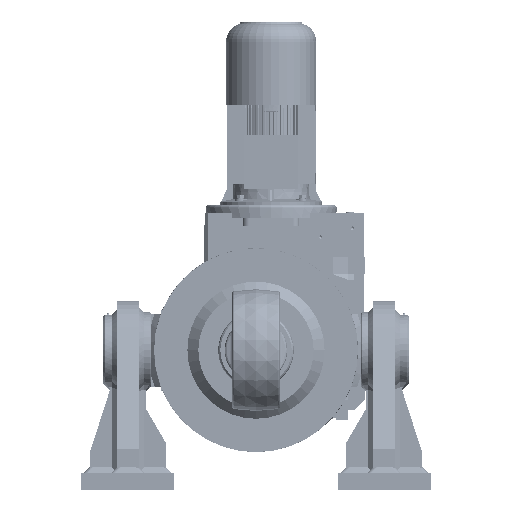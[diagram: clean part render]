
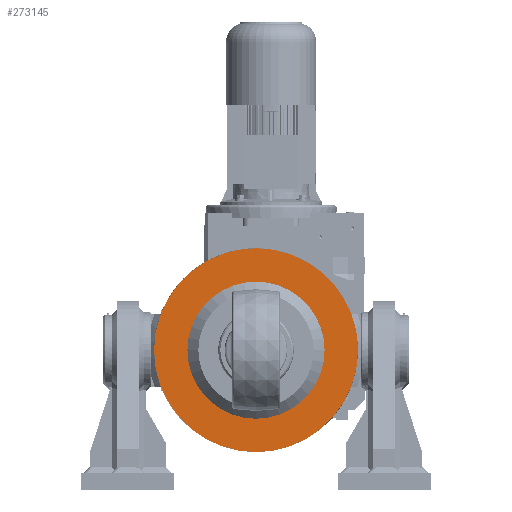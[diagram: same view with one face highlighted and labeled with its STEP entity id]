
A CAD part, front view. The second image highlights one B-rep face of the part: STEP entity #273145.
In plain terms, the highlighted planar face has unit normal (0, -1, 0).
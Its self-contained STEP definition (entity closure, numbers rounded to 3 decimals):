
#46455=PLANE('',#285861);
#65816=ORIENTED_EDGE('',*,*,#129132,.F.);
#65817=ORIENTED_EDGE('',*,*,#129131,.T.);
#129131=EDGE_CURVE('',#161606,#161606,#182200,.T.);
#129132=EDGE_CURVE('',#161607,#161607,#182201,.T.);
#161606=VERTEX_POINT('',#384721);
#161607=VERTEX_POINT('',#384724);
#182200=CIRCLE('',#285860,350.);
#182201=CIRCLE('',#285862,235.355);
#194179=EDGE_LOOP('',(#65816));
#194180=EDGE_LOOP('',(#65817));
#207265=FACE_BOUND('',#194179,.T.);
#207266=FACE_BOUND('',#194180,.T.);
#273145=ADVANCED_FACE('',(#207265,#207266),#46455,.F.);
#285860=AXIS2_PLACEMENT_3D('',#384720,#314423,#314424);
#285861=AXIS2_PLACEMENT_3D('',#384722,#314425,#314426);
#285862=AXIS2_PLACEMENT_3D('',#384723,#314427,#314428);
#314423=DIRECTION('',(0.,-1.,0.));
#314424=DIRECTION('',(0.,0.,-1.));
#314425=DIRECTION('',(0.,1.,0.));
#314426=DIRECTION('',(0.,0.,1.));
#314427=DIRECTION('',(0.,-1.,0.));
#314428=DIRECTION('',(0.,0.,-1.));
#384720=CARTESIAN_POINT('',(0.,415.,0.));
#384721=CARTESIAN_POINT('',(0.,415.,-350.));
#384722=CARTESIAN_POINT('',(0.,415.,350.));
#384723=CARTESIAN_POINT('',(0.,415.,0.));
#384724=CARTESIAN_POINT('',(0.,415.,-235.355));
